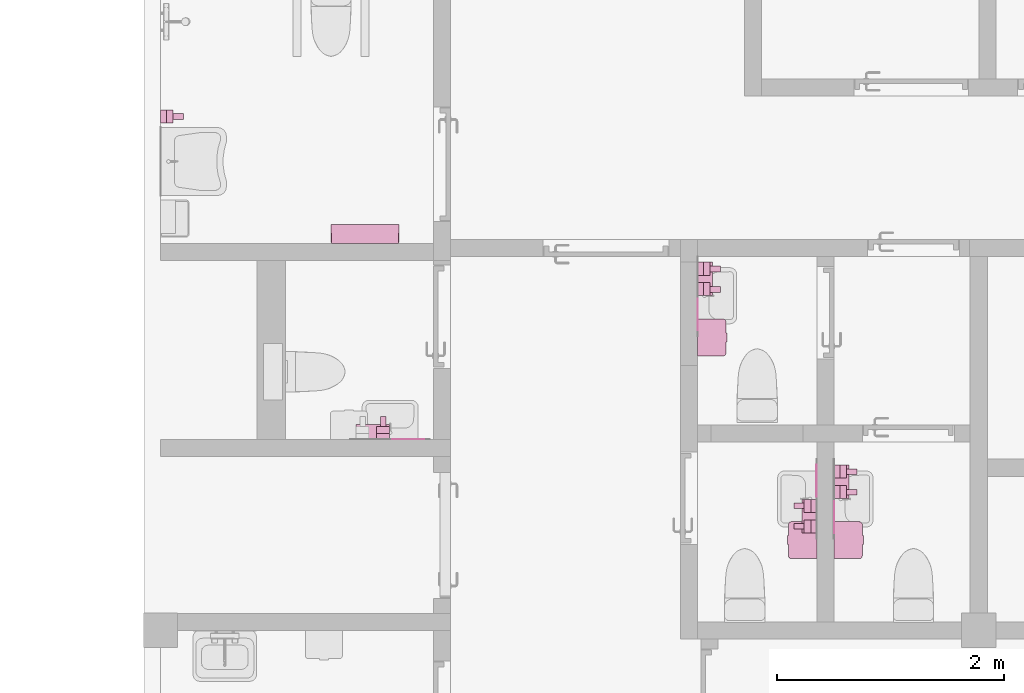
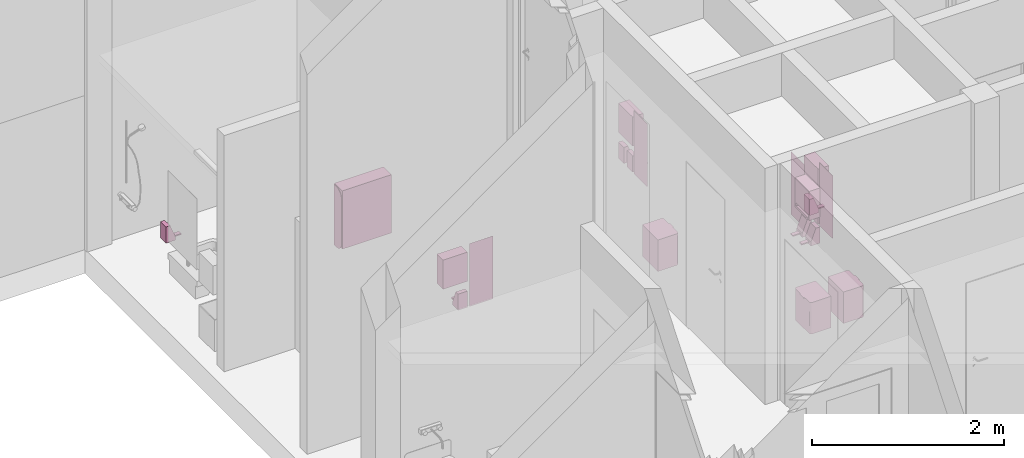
# One storey, part 54 of 58: 20 furnishings.
"""IFC2X3 building model written with IfcOpenShell, lengths in millimetres."""

from ifc_helpers import new_model, entity, si_unit, converted_unit, derived_unit, direction, frame, origin, origin_2d_with_axis, place, context, subcontext, project, spatial, polyline, rectangle, outline, extrude, faceted_brep, source, transform, mapped, material, type_object, type_shapes, element, save


model = new_model("IFC2X3")

# Units and contexts
model_context = context("Model", 3, precision=0.01, world=origin(), true_north=direction((0.7716245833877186, 0.6360782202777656)))
body_context = subcontext(model_context, "Body", "Model", "MODEL_VIEW")
ifc_project = project(units=[si_unit("LENGTHUNIT", "METRE", prefix="MILLI"), si_unit("AREAUNIT", "SQUARE_METRE"), converted_unit("PLANEANGLEUNIT", "DEGREE", entity("IfcPlaneAngleMeasure", 0.017453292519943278), si_unit("PLANEANGLEUNIT", "RADIAN"), dimensions=[0, 0, 0, 0, 0, 0, 0]), derived_unit("THERMALTRANSMITTANCEUNIT", [(si_unit("MASSUNIT", "GRAM", prefix="KILO"), 1), (si_unit("THERMODYNAMICTEMPERATUREUNIT", "KELVIN"), -1), (si_unit("TIMEUNIT", "SECOND"), -3)])], contexts=[model_context])

# Site, building, storey, space
site_placement = place(None, origin())
site = spatial("IfcSite", under=ifc_project, at=site_placement, Name="Default", CompositionType="ELEMENT")
building_placement = place(site_placement, origin())
building = spatial("IfcBuilding", under=site, at=building_placement, CompositionType="ELEMENT")
storey_placement = place(building_placement, frame((0.0, 0.0, 31140.0)))
storey = spatial("IfcBuildingStorey", under=building, at=storey_placement, Name="PLAN U1", CompositionType="ELEMENT", Elevation=31140.000000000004)
space_1_placement = place(storey_placement, origin())
space_1 = spatial("IfcSpace", under=storey, at=space_1_placement, Name="B5-304", CompositionType="ELEMENT", InteriorOrExteriorSpace="INTERNAL")

# Furnishing
ifc_material = material(Name="<Unnamed>")
furniture_type_1 = type_object("IfcFurnitureType", Name="274.019-Stellebord, nedfellbart fra vegg:Stellebord, nedfellbart", AssemblyPlace="NOTDEFINED", material=ifc_material)
shared_shape_1 = source(origin(), body_context, "Body", "Brep", [
    faceted_brep([(600.0, -86.52990503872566, -32196.251840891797), (600.0, -115.0, -32200.0), (595.0, -115.0, -32200.0), (595.0, -86.52990503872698, -32196.251840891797), (5.0, -86.52990503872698, -32196.251840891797), (5.0, -115.0, -32200.0), (0.0, -115.0, -32200.0), (0.0, -86.52990503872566, -32196.251840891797), (600.0, -60.0, -32185.262794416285), (595.0, -60.0, -32185.262794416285), (5.0, -60.0, -32185.262794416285), (0.0, -60.0, -32185.262794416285), (600.0, -37.21825406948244, -32167.781745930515), (595.0, -37.2182540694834, -32167.781745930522), (5.0, -37.2182540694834, -32167.781745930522), (0.0, -37.21825406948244, -32167.781745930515), (600.0, -8.74815910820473, -32118.470094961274), (600.0, -19.73720558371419, -32145.0), (595.0, -19.737205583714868, -32145.0), (595.0, -8.748159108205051, -32118.470094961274), (5.0, -8.748159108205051, -32118.470094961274), (5.0, -19.737205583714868, -32145.0), (0.0, -19.73720558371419, -32145.0), (0.0, -8.74815910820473, -32118.470094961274), (600.0, -5.0, -32090.0), (595.0, -5.0, -32090.0), (5.0, -5.0, -32090.0), (0.0, -5.0, -32090.0), (5.0, -5.0, -31540.0), (0.0, -5.0, -31540.0), (600.0, -5.0, -31540.0), (595.0, -5.0, -31540.0), (5.0, -8.748159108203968, -31511.52990503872), (0.0, -8.748159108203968, -31511.52990503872), (600.0, -8.748159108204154, -31511.52990503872), (595.0, -8.748159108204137, -31511.52990503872), (5.0, -19.737205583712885, -31485.0), (0.0, -19.737205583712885, -31485.0), (600.0, -19.73720558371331, -31485.0), (595.0, -19.737205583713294, -31485.0), (5.0, -37.218254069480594, -31462.218254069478), (0.0, -37.21825406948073, -31462.218254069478), (600.0, -37.218254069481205, -31462.218254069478), (595.0, -37.21825406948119, -31462.218254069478), (5.0, -60.0, -31444.73720558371), (0.0, -60.0, -31444.73720558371), (595.0, -60.0, -31444.73720558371), (600.0, -60.0, -31444.73720558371), (5.0, -86.52990503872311, -31433.7481591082), (0.0, -86.52990503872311, -31433.7481591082), (600.0, -86.52990503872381, -31433.7481591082), (595.0, -86.52990503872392, -31433.7481591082), (5.0, -115.0, -31430.0), (0.0, -115.0, -31430.0), (600.0, -115.0, -31430.0), (595.0, -115.0, -31430.0), (600.0, -165.0, -31430.0), (600.0, -165.0, -32200.0), (0.0, -165.0, -31430.0), (0.0, -165.0, -32200.0), (5.0, -160.0, -32200.0), (595.0, -160.0, -32200.0), (5.0, -160.0, -31430.0), (595.0, -160.0, -31430.0)], [[[0, 1, 2, 3]], [[4, 5, 6, 7]], [[8, 0, 3, 9]], [[10, 4, 7, 11]], [[12, 8, 9, 13]], [[14, 10, 11, 15]], [[16, 17, 18, 19]], [[20, 21, 22, 23]], [[24, 16, 19, 25]], [[26, 20, 23, 27]], [[13, 18, 17, 12]], [[21, 14, 15, 22]], [[28, 26, 27, 29]], [[30, 24, 25, 31]], [[32, 28, 29, 33]], [[34, 30, 31, 35]], [[36, 32, 33, 37]], [[38, 34, 35, 39]], [[40, 36, 37, 41]], [[42, 38, 39, 43]], [[44, 40, 41, 45]], [[43, 46, 47, 42]], [[48, 44, 45, 49]], [[50, 47, 46, 51]], [[52, 48, 49, 53]], [[54, 50, 51, 55]], [[30, 34, 38, 42, 47, 50, 54, 56, 57, 1, 0, 8, 12, 17, 16, 24]], [[57, 56, 58, 59]], [[57, 59, 6, 5, 60, 61, 2, 1]], [[29, 27, 23, 22, 15, 11, 7, 6, 59, 58, 53, 49, 45, 41, 37, 33]], [[28, 32, 36, 40, 44, 48, 52, 62, 60, 5, 4, 10, 14, 21, 20, 26]], [[61, 60, 62, 63]], [[55, 51, 46, 43, 39, 35, 31, 25, 19, 18, 13, 9, 3, 2, 61, 63]], [[54, 55, 63, 62, 52, 53, 58, 56]]]),
    faceted_brep([(595.0, -165.0, -31420.0), (595.0, -165.0, -31425.0), (595.0, -160.0, -31425.0), (595.0, -160.0, -32160.0), (595.0, 0.0, -32160.0), (595.0, 0.0, -31420.0), (5.0, -160.0, -31425.0), (5.0, -160.0, -32160.0), (5.0, 0.0, -32160.0), (5.0, 0.0, -31420.0), (5.0, -165.0, -31420.0), (5.0, -165.0, -31425.0)], [[[0, 1, 2, 3, 4, 5]], [[3, 2, 6, 7]], [[4, 3, 7, 8]], [[5, 4, 8, 9]], [[10, 9, 8, 7, 6, 11]], [[1, 0, 10, 11]], [[2, 1, 11, 6]], [[0, 5, 9, 10]]]),
])
type_shapes(furniture_type_1, [shared_shape_1])
furnishing_1_placement = place(space_1_placement, frame((260817.92444647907, 62720.72307172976, 33100.0), z_axis=(0.0, 0.0, 1.0), x_axis=(-1.0, 0.0, 0.0)))
element("IfcFurnishingElement", 1, at=furnishing_1_placement, inside=space_1, type_object=furniture_type_1, material=ifc_material, Name="274.019-Stellebord, nedfellbart fra vegg:Stellebord, nedfellbart", ObjectType="274.019-Stellebord, nedfellbart fra vegg:Stellebord, nedfellbart", context=body_context, shape_type="MappedRepresentation", body=[
    mapped(shared_shape_1, transform((0.0, 0.0, 0.0), scale=1.0)),
])

# Space
space_2_placement = place(storey_placement, origin())
space_2 = spatial("IfcSpace", under=storey, at=space_2_placement, Name="B5-311A", CompositionType="ELEMENT", InteriorOrExteriorSpace="INTERNAL")

# Furnishing
furniture_type_2 = type_object("IfcFurnitureType", Name="Avfallsstativ, vegghengt lukket:Avfallsbøtte, vegghengt lukket", AssemblyPlace="NOTDEFINED", material=ifc_material)
shared_shape_2 = source(origin(), body_context, "Body", "Brep", [
    faceted_brep([(300.0, -250.0, -30610.0), (202.50000000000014, -250.0, -30610.0), (202.50000000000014, -250.0, -30622.469562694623), (300.0, -250.0, -30622.469562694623), (122.50000000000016, -250.0, -30610.0), (25.0, -250.0, -30610.0), (25.0, -250.0, -30622.469562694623), (122.50000000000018, -250.0, -30622.469562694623), (312.5000000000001, -246.65063509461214, -30610.0), (317.6776695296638, -242.67766952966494, -30610.0), (321.65063509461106, -237.50000000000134, -30610.0), (324.14814565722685, -231.47047612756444, -30610.0), (325.0, -225.0, -30610.0), (325.0, 0.0, -30610.0), (0.0, 0.0, -30610.0), (0.0, -225.0, -30610.0), (0.8518543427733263, -231.4704761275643, -30610.0), (3.3493649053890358, -237.50000000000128, -30610.0), (7.322330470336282, -242.67766952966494, -30610.0), (12.499999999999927, -246.65063509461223, -30610.0), (18.529523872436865, -249.14814565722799, -30610.0), (122.50000000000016, -260.0, -30610.0), (202.50000000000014, -260.0, -30610.0), (306.47047612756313, -249.14814565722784, -30610.0), (12.499999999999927, -246.65063509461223, -30622.469562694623), (7.322330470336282, -242.67766952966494, -30622.469562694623), (3.3493649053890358, -237.50000000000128, -30622.469562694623), (0.8518543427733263, -231.4704761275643, -30622.469562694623), (0.0, -225.0, -30622.469562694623), (0.0, 0.0, -30622.469562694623), (325.0, 0.0, -30622.469562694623), (325.0, -225.0, -30622.469562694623), (324.14814565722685, -231.47047612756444, -30622.469562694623), (321.65063509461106, -237.50000000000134, -30622.469562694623), (317.6776695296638, -242.67766952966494, -30622.469562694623), (312.5000000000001, -246.65063509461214, -30622.469562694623), (306.47047612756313, -249.14814565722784, -30622.469562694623), (202.5000000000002, -260.0, -30622.469562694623), (122.50000000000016, -260.0, -30622.469562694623), (18.529523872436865, -249.14814565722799, -30622.469562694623)], [[[0, 1, 2, 3]], [[4, 5, 6, 7]], [[8, 9, 10, 11, 12, 13, 14, 15, 16, 17, 18, 19, 20, 5, 4, 21, 22, 1, 0, 23]], [[24, 25, 26, 27, 28, 29, 30, 31, 32, 33, 34, 35, 36, 3, 2, 37, 38, 7, 6, 39]], [[14, 13, 30, 29]], [[15, 14, 29, 28]], [[16, 15, 28, 27]], [[17, 16, 27, 26]], [[18, 17, 26, 25]], [[19, 18, 25, 24]], [[20, 19, 24, 39]], [[5, 20, 39, 6]], [[23, 0, 3, 36]], [[8, 23, 36, 35]], [[9, 8, 35, 34]], [[10, 9, 34, 33]], [[11, 10, 33, 32]], [[12, 11, 32, 31]], [[13, 12, 31, 30]], [[21, 4, 7, 38]], [[22, 21, 38, 37]], [[1, 22, 37, 2]]]),
    faceted_brep([(325.0, 0.0, -30622.469562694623), (315.0, -10.0, -30622.469562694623), (325.0, -225.0, -30622.469562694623), (10.0, -10.0, -30622.469562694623), (0.0, 0.0, -30622.469562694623), (0.0, -225.0, -30622.469562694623), (10.0, -225.0, -30622.469562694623), (10.51111260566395, -228.88228567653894, -30622.469562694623), (0.8518543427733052, -231.4704761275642, -30622.469562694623), (12.009618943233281, -232.50000000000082, -30622.469562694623), (3.3493649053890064, -237.5000000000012, -30622.469562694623), (7.322330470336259, -242.6776695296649, -30622.469562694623), (14.393398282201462, -235.6066017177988, -30622.469562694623), (12.499999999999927, -246.65063509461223, -30622.469562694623), (17.49999999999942, -237.99038105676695, -30622.469562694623), (18.529523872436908, -249.148145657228, -30622.469562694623), (21.11771432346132, -239.48888739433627, -30622.469562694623), (25.0, -250.0, -30622.469562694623), (25.0, -240.0, -30622.469562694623), (300.0, -250.0, -30622.469562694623), (300.0, -240.0, -30622.469562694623), (303.882285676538, -239.48888739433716, -30622.469562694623), (306.4704761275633, -249.1481456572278, -30622.469562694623), (307.5000000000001, -237.99038105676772, -30622.469562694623), (312.5000000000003, -246.65063509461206, -30622.469562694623), (310.6066017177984, -235.60660171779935, -30622.469562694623), (317.67766952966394, -242.6776695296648, -30622.469562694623), (312.99038105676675, -232.50000000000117, -30622.469562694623), (321.6506350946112, -237.50000000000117, -30622.469562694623), (324.1481456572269, -231.4704761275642, -30622.469562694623), (314.4888873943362, -228.882285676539, -30622.469562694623), (315.0, -225.0, -30622.469562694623), (12.499999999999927, -246.65063509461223, -31010.0), (7.322330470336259, -242.6776695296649, -31010.0), (3.3493649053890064, -237.5000000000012, -31010.0), (0.8518543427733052, -231.4704761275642, -31010.0), (0.0, -225.0, -31010.0), (0.0, 0.0, -31010.0), (325.0, 0.0, -31010.0), (325.0, -225.0, -31010.0), (324.1481456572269, -231.4704761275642, -31010.0), (321.6506350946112, -237.50000000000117, -31010.0), (317.67766952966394, -242.6776695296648, -31010.0), (312.5000000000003, -246.65063509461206, -31010.0), (306.4704761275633, -249.1481456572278, -31010.0), (300.0, -250.0, -31010.0), (25.0, -250.0, -31010.0), (18.529523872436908, -249.148145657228, -31010.0), (0.0, -225.0, -30816.23478134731), (1.9030116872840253, -234.56708580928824, -30816.234781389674), (20.1227419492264, -249.5196320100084, -30765.24939916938), (15.43291419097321, -248.0969883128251, -30816.23478137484), (0.4803679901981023, -229.87725805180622, -30867.220163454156), (5.1661664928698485, -240.21903572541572, -30844.27154992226), (25.0, -250.0, -30816.23478134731), (9.780964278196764, -244.8338335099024, -30788.19801262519), (300.0, -250.0, -30816.23478134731), (309.5670858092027, -248.09698831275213, -30816.23478136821), (324.51963201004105, -229.87725805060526, -30765.249399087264), (323.09698831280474, -234.5670858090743, -30816.23478136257), (304.87725805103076, -249.51963200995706, -30867.220163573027), (315.219035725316, -244.833833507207, -30844.271550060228), (325.0, -225.0, -30816.23478134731), (319.83383350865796, -240.21903572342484, -30788.198012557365), (10.0, -10.0, -30997.53043730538), (315.0, -10.0, -30997.53043730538), (315.0, -225.0, -30997.53043730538), (315.0, -225.0, -30862.29730478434), (315.0, -225.0, -30757.70269521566), (313.8581929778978, -230.74025150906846, -30710.62416546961), (311.90030005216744, -234.13142150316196, -30809.999998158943), (312.1922170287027, -233.73783977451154, -30711.959482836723), (303.2078222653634, -239.65298182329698, -30769.81399780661), (300.0, -240.0, -30757.702687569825), (313.858193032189, -230.74025137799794, -30909.37583365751), (314.25697939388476, -229.66246056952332, -30809.99999840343), (314.7595251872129, -227.6751478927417, -30912.405626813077), (305.7402515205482, -238.85819297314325, -30824.218520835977), (309.13142139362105, -236.90030013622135, -30741.84328772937), (309.1314214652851, -236.9003000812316, -30883.165047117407), (303.01290960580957, -239.69429738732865, -30859.006726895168), (314.75952516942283, -227.67514799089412, -30707.594374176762), (312.99038105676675, -232.50000000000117, -30997.53043730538), (312.19221708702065, -233.73783969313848, -30908.040514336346), (314.4888873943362, -228.882285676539, -30997.53043730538), (305.74025145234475, -238.85819300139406, -30715.40947020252), (305.4416115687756, -238.97815665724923, -30917.083020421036), (300.0, -240.0, -30877.6165624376), (303.882285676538, -239.48888739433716, -30997.53043730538), (300.0, -240.0, -30997.53043730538), (310.6066017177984, -235.60660171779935, -30997.53043730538), (307.5000000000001, -237.99038105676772, -30997.53043730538), (25.0, -240.0, -30997.53043730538), (25.0, -240.0, -30862.297304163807), (25.0, -240.0, -30757.702695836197), (19.259748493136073, -238.85819297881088, -30710.624166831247), (10.0, -225.0, -30877.61670456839), (10.511112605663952, -228.88228567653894, -30997.53043730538), (10.0, -225.0, -30997.53043730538), (14.393398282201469, -235.6066017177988, -30997.53043730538), (13.099699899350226, -234.13142143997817, -30883.165048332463), (16.262160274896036, -237.1922170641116, -30908.0405160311), (22.32485202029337, -239.75952517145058, -30912.405624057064), (19.259748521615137, -238.85819299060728, -30909.375834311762), (20.33753950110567, -239.2569794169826, -30810.000000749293), (22.32485201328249, -239.75952517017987, -30707.594375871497), (21.11771432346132, -239.48888739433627, -30997.53043730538), (17.499999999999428, -237.99038105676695, -30997.53043730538), (16.262160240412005, -237.1922170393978, -30711.95948379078), (15.868578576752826, -236.90030011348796, -30810.00000012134), (13.09969988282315, -234.13142141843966, -30741.843289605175), (10.347018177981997, -228.20782227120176, -30769.813997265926), (11.141807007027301, -230.74025147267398, -30715.409470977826), (11.141807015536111, -230.74025149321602, -30824.218522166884), (10.30570260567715, -228.01290957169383, -30859.00672535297), (11.021843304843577, -230.44161147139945, -30917.08302024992), (12.009618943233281, -232.50000000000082, -30997.53043730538), (10.0, -225.0, -30757.70275223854)], [[[0, 1, 2]], [[1, 0, 3]], [[4, 3, 0]], [[3, 4, 5]], [[5, 6, 3]], [[7, 6, 5]], [[8, 7, 5]], [[7, 8, 9]], [[10, 9, 8]], [[11, 9, 10]], [[11, 12, 9]], [[11, 13, 12]], [[13, 14, 12]], [[14, 13, 15]], [[16, 14, 15]], [[15, 17, 16]], [[18, 16, 17]], [[18, 17, 19]], [[20, 18, 19]], [[21, 20, 19]], [[19, 22, 21]], [[21, 22, 23]], [[23, 22, 24]], [[25, 23, 24]], [[26, 25, 24]], [[26, 27, 25]], [[27, 26, 28]], [[29, 27, 28]], [[30, 29, 2]], [[30, 27, 29]], [[2, 1, 31]], [[31, 30, 2]], [[32, 33, 34, 35, 36, 37, 38, 39, 40, 41, 42, 43, 44, 45, 46, 47]], [[4, 0, 38, 37]], [[4, 37, 36, 48, 5]], [[49, 35, 34]], [[47, 50, 51]], [[36, 52, 48]], [[53, 49, 34]], [[34, 33, 53]], [[52, 35, 49]], [[50, 17, 15]], [[48, 8, 5]], [[10, 8, 49]], [[35, 52, 36]], [[10, 49, 53]], [[17, 50, 54]], [[51, 32, 47]], [[55, 53, 33]], [[11, 53, 55]], [[47, 46, 54]], [[33, 32, 55]], [[55, 51, 13]], [[48, 52, 8]], [[51, 15, 13]], [[51, 50, 15]], [[10, 53, 11]], [[54, 50, 47]], [[32, 51, 55]], [[8, 52, 49]], [[55, 13, 11]], [[17, 54, 46, 45, 56, 19]], [[57, 44, 43]], [[40, 58, 59]], [[45, 60, 56]], [[61, 57, 43]], [[43, 42, 61]], [[60, 44, 57]], [[58, 2, 29]], [[56, 22, 19]], [[24, 22, 57]], [[44, 60, 45]], [[24, 57, 61]], [[2, 58, 62]], [[59, 41, 40]], [[63, 61, 42]], [[26, 61, 63]], [[40, 39, 62]], [[42, 41, 63]], [[63, 59, 28]], [[56, 60, 22]], [[59, 29, 28]], [[59, 58, 29]], [[24, 61, 26]], [[62, 58, 40]], [[41, 59, 63]], [[22, 60, 57]], [[63, 28, 26]], [[0, 2, 62, 39, 38]], [[1, 3, 64, 65]], [[1, 65, 66, 67, 68, 31]], [[69, 70, 71]], [[72, 73, 20]], [[74, 75, 76]], [[68, 67, 75]], [[77, 78, 79]], [[73, 72, 80]], [[76, 67, 66]], [[30, 81, 69]], [[69, 27, 30]], [[82, 83, 74]], [[82, 74, 84]], [[23, 78, 85]], [[72, 85, 77]], [[69, 75, 70]], [[70, 74, 83]], [[80, 77, 86]], [[78, 23, 25]], [[71, 70, 78]], [[81, 30, 31]], [[86, 77, 79]], [[80, 72, 77]], [[23, 85, 21]], [[87, 88, 89]], [[79, 90, 91]], [[70, 79, 78]], [[90, 79, 83]], [[72, 20, 21]], [[77, 85, 78]], [[71, 27, 69]], [[68, 75, 81]], [[71, 25, 27]], [[25, 71, 78]], [[84, 74, 76]], [[75, 74, 70]], [[70, 83, 79]], [[83, 82, 90]], [[69, 81, 75]], [[68, 81, 31]], [[84, 76, 66]], [[67, 76, 75]], [[85, 72, 21]], [[87, 73, 80]], [[80, 88, 87]], [[88, 80, 86]], [[86, 91, 88]], [[91, 86, 79]], [[18, 20, 73, 87, 89, 92, 93, 94]], [[95, 14, 16]], [[96, 97, 98]], [[99, 100, 101]], [[102, 103, 104]], [[16, 18, 105]], [[93, 104, 94]], [[103, 106, 107]], [[101, 103, 107]], [[102, 93, 92]], [[94, 105, 18]], [[108, 95, 109]], [[12, 110, 9]], [[109, 100, 110]], [[111, 112, 113]], [[109, 103, 101]], [[16, 105, 95]], [[114, 113, 115]], [[100, 115, 113]], [[100, 99, 116]], [[109, 110, 108]], [[111, 117, 6]], [[114, 111, 113]], [[117, 111, 114]], [[104, 109, 95]], [[9, 110, 112]], [[113, 110, 100]], [[9, 112, 7]], [[111, 6, 7]], [[113, 112, 110]], [[108, 14, 95]], [[94, 104, 105]], [[108, 12, 14]], [[12, 108, 110]], [[106, 103, 102]], [[104, 103, 109]], [[109, 101, 100]], [[101, 107, 99]], [[95, 105, 104]], [[106, 102, 92]], [[93, 102, 104]], [[112, 111, 7]], [[96, 117, 114]], [[114, 97, 96]], [[97, 114, 115]], [[115, 116, 97]], [[116, 115, 100]], [[3, 6, 117, 96, 98, 64]], [[82, 84, 66, 65, 64, 98, 97, 116, 99, 107, 106, 92, 89, 88, 91, 90]]]),
])
type_shapes(furniture_type_2, [shared_shape_2])
furnishing_2_placement = place(space_2_placement, frame((264642.924446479, 59945.72307172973, 31140.0), z_axis=(0.0, 0.0, 1.0), x_axis=(0.0, 1.0, 0.0)))
element("IfcFurnishingElement", 2, at=furnishing_2_placement, inside=space_2, type_object=furniture_type_2, material=ifc_material, Name="Avfallsstativ, vegghengt lukket:Avfallsbøtte, vegghengt lukket", ObjectType="Avfallsstativ, vegghengt lukket:Avfallsbøtte, vegghengt lukket", context=body_context, shape_type="MappedRepresentation", body=[
    mapped(shared_shape_2, transform((0.0, 0.0, 0.0), scale=1.0)),
])

# Space
space_3_placement = place(storey_placement, origin())
space_3 = spatial("IfcSpace", under=storey, at=space_3_placement, Name="B5-311B", CompositionType="ELEMENT", InteriorOrExteriorSpace="INTERNAL")

# Furnishing
furnishing_3_placement = place(space_3_placement, frame((264492.924446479, 60270.72307172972, 31140.0), z_axis=(0.0, 0.0, 1.0), x_axis=(0.0, -1.0, 0.0)))
element("IfcFurnishingElement", 3, at=furnishing_3_placement, inside=space_3, type_object=furniture_type_2, material=ifc_material, Name="Avfallsstativ, vegghengt lukket:Avfallsbøtte, vegghengt lukket", ObjectType="Avfallsstativ, vegghengt lukket:Avfallsbøtte, vegghengt lukket", context=body_context, shape_type="MappedRepresentation", body=[
    mapped(shared_shape_2, transform((0.0, 0.0, 0.0), scale=1.0)),
])

# Space
space_4_placement = place(storey_placement, origin())
space_4 = spatial("IfcSpace", under=storey, at=space_4_placement, Name="WC", CompositionType="ELEMENT", InteriorOrExteriorSpace="INTERNAL")

# Furnishings
furnishing_4_placement = place(space_4_placement, frame((263442.92444647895, 61729.50163955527, 31140.0), z_axis=(0.0, 0.0, 1.0), x_axis=(0.0, 1.0, 0.0)))
element("IfcFurnishingElement", 4, at=furnishing_4_placement, inside=space_4, type_object=furniture_type_2, material=ifc_material, Name="Avfallsstativ, vegghengt lukket:Avfallsbøtte, vegghengt lukket", ObjectType="Avfallsstativ, vegghengt lukket:Avfallsbøtte, vegghengt lukket", context=body_context, shape_type="MappedRepresentation", body=[
    mapped(shared_shape_2, transform((0.0, 0.0, 0.0), scale=1.0)),
])
furniture_type_3 = type_object("IfcFurnitureType", Name="Servantdispenser:Servantdispenser", AssemblyPlace="NOTDEFINED", material=ifc_material)
shared_shape_3 = source(origin(), body_context, "Body", "SweptSolid", [
    extrude(outline(polyline([(-56.0, -92.0), (54.0, -92.0), (54.0, 113.0), (4.0, 113.0), (-56.0, -42.0), (-56.0, -92.0)])), frame((-57.499999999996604, -51.0, 92.0), z_axis=(1.0, 0.0, 0.0), x_axis=(0.0, 1.0, 0.0)), (0.0, 0.0, 1.0), 114.99999999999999),
    extrude(rectangle(XDim=90.00000000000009, YDim=50.00000000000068, at=origin_2d_with_axis()), frame((-2.1527777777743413, -152.0, 20.0), z_axis=(0.0, 0.0, 1.0), x_axis=(0.0, 1.0, 0.0)), (0.0, 0.0, 1.0), 14.999999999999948),
])
type_shapes(furniture_type_3, [shared_shape_3])
for number, where, z_axis, x_axis in (
    (5, (264647.924446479, 60533.22307172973, 1070.0), (0.0, 0.0, 1.0), (0.0, 1.0, 0.0)),
    (6, (264647.924446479, 60713.22307172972, 1070.0), (0.0, 0.0, 1.0), (0.0, 1.0, 0.0)),
):
    element("IfcFurnishingElement", number, at=place(space_2_placement, frame(where, z_axis=z_axis, x_axis=x_axis)), inside=space_2, type_object=furniture_type_3, material=ifc_material, Name="Servantdispenser:Servantdispenser", ObjectType="Servantdispenser:Servantdispenser", context=body_context, shape_type="MappedRepresentation", body=[
        mapped(shared_shape_3, transform((0.0, 0.0, 0.0), scale=1.0)),
    ])
for number, where, z_axis, x_axis in (
    (7, (264487.92444647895, 60408.22307172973, 1070.0), (0.0, 0.0, 1.0), (0.0, -1.0, 0.0)),
    (8, (264487.92444647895, 60228.223071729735, 1070.0), (0.0, 0.0, 1.0), (0.0, -1.0, 0.0)),
):
    element("IfcFurnishingElement", number, at=place(space_3_placement, frame(where, z_axis=z_axis, x_axis=x_axis)), inside=space_3, type_object=furniture_type_3, material=ifc_material, Name="Servantdispenser:Servantdispenser", ObjectType="Servantdispenser:Servantdispenser", context=body_context, shape_type="MappedRepresentation", body=[
        mapped(shared_shape_3, transform((0.0, 0.0, 0.0), scale=1.0)),
    ])
furnishing_5_placement = place(space_1_placement, frame((258720.924446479, 63838.22307172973, 900.0), z_axis=(0.0, 0.0, 1.0), x_axis=(0.0, 1.0, 0.0)))
element("IfcFurnishingElement", 9, at=furnishing_5_placement, inside=space_1, type_object=furniture_type_3, material=ifc_material, Name="Servantdispenser:Servantdispenser", ObjectType="Servantdispenser:Servantdispenser", context=body_context, shape_type="MappedRepresentation", body=[
    mapped(shared_shape_3, transform((0.0, 0.0, 0.0), scale=1.0)),
])
for number, where, z_axis, x_axis in (
    (10, (263447.924446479, 62317.00163955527, 1070.0), (0.0, 0.0, 1.0), (0.0, 1.0, 0.0)),
    (11, (263447.924446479, 62497.00163955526, 1070.0), (0.0, 0.0, 1.0), (0.0, 1.0, 0.0)),
):
    element("IfcFurnishingElement", number, at=place(space_4_placement, frame(where, z_axis=z_axis, x_axis=x_axis)), inside=space_4, type_object=furniture_type_3, material=ifc_material, Name="Servantdispenser:Servantdispenser", ObjectType="Servantdispenser:Servantdispenser", context=body_context, shape_type="MappedRepresentation", body=[
        mapped(shared_shape_3, transform((0.0, 0.0, 0.0), scale=1.0)),
    ])

# Space
space_5_placement = place(storey_placement, origin())
space_5 = spatial("IfcSpace", under=storey, at=space_5_placement, Name="B5-303", CompositionType="ELEMENT", InteriorOrExteriorSpace="INTERNAL")

# Furnishings
furnishing_6_placement = place(space_5_placement, frame((260675.4244464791, 60999.50163955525, 1070.0), z_axis=(0.0, 0.0, 1.0), x_axis=(-1.0, 0.0, 0.0)))
element("IfcFurnishingElement", 12, at=furnishing_6_placement, inside=space_5, type_object=furniture_type_3, material=ifc_material, Name="Servantdispenser:Servantdispenser", ObjectType="Servantdispenser:Servantdispenser", context=body_context, shape_type="MappedRepresentation", body=[
    mapped(shared_shape_3, transform((0.0, 0.0, 0.0), scale=1.0)),
])
furniture_type_4 = type_object("IfcFurnitureType", Name="279.xxx-Speil:Speil veggfast,280x800", AssemblyPlace="NOTDEFINED", material=ifc_material)
shared_shape_4 = source(origin(), body_context, "Body", "SweptSolid", [
    extrude(rectangle(XDim=2.0, YDim=279.99999999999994, at=origin_2d_with_axis()), frame((0.0, 4.0, 0.0), z_axis=(0.0, 0.0, 1.0), x_axis=(0.0, 1.0, 0.0)), (0.0, 0.0, 1.0), 800.0000000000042),
])
type_shapes(furniture_type_4, [shared_shape_4])
furnishing_7_placement = place(space_2_placement, frame((264649.924446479, 60310.72307172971, 1070.0), z_axis=(0.0, 0.0, 1.0), x_axis=(0.0, 1.0, 0.0)))
element("IfcFurnishingElement", 13, at=furnishing_7_placement, inside=space_2, type_object=furniture_type_4, material=ifc_material, Name="279.xxx-Speil:Speil veggfast,280x800", ObjectType="279.xxx-Speil:Speil veggfast,280x800", context=body_context, shape_type="MappedRepresentation", body=[
    mapped(shared_shape_4, transform((0.0, 0.0, 0.0), scale=1.0)),
])
furnishing_8_placement = place(space_3_placement, frame((264485.92444647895, 60630.723071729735, 1070.0), z_axis=(0.0, 0.0, 1.0), x_axis=(0.0, -1.0, 0.0)))
element("IfcFurnishingElement", 14, at=furnishing_8_placement, inside=space_3, type_object=furniture_type_4, material=ifc_material, Name="279.xxx-Speil:Speil veggfast,280x800", ObjectType="279.xxx-Speil:Speil veggfast,280x800", context=body_context, shape_type="MappedRepresentation", body=[
    mapped(shared_shape_4, transform((0.0, 0.0, 0.0), scale=1.0)),
])
furnishing_9_placement = place(space_4_placement, frame((263449.924446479, 62094.50163955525, 1070.0), z_axis=(0.0, 0.0, 1.0), x_axis=(0.0, 1.0, 0.0)))
element("IfcFurnishingElement", 15, at=furnishing_9_placement, inside=space_4, type_object=furniture_type_4, material=ifc_material, Name="279.xxx-Speil:Speil veggfast,280x800", ObjectType="279.xxx-Speil:Speil veggfast,280x800", context=body_context, shape_type="MappedRepresentation", body=[
    mapped(shared_shape_4, transform((0.0, 0.0, 0.0), scale=1.0)),
])
furnishing_10_placement = place(space_5_placement, frame((260897.9244464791, 61001.50163955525, 1070.0), z_axis=(0.0, 0.0, 1.0), x_axis=(-1.0, 0.0, 0.0)))
element("IfcFurnishingElement", 16, at=furnishing_10_placement, inside=space_5, type_object=furniture_type_4, material=ifc_material, Name="279.xxx-Speil:Speil veggfast,280x800", ObjectType="279.xxx-Speil:Speil veggfast,280x800", context=body_context, shape_type="MappedRepresentation", body=[
    mapped(shared_shape_4, transform((0.0, 0.0, 0.0), scale=1.0)),
])
furniture_type_5 = type_object("IfcFurnitureType", Name="Dispenser, papir:Dispenser, papir", AssemblyPlace="NOTDEFINED", material=ifc_material)
shared_shape_5 = source(origin(), body_context, "Body", "Brep", [
    faceted_brep([(147.4999999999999, 0.0, -32870.0), (-147.4999999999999, 0.0, -32870.0), (-147.4999999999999, -130.0, -32870.0), (147.4999999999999, -130.0, -32870.0), (147.4999999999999, 0.0, -33240.0), (147.4999999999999, -130.0, -33240.0), (-147.4999999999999, -130.0, -33240.0), (-147.4999999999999, 0.0, -33240.0), (-127.4999999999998, -130.0, -33180.0), (127.4999999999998, -130.0, -33180.0), (127.4999999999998, -130.0, -33220.0), (-127.4999999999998, -130.0, -33220.0), (127.4999999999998, -10.0, -33180.0), (-127.4999999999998, -10.0, -33180.0), (-127.4999999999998, -10.0, -33220.0), (127.4999999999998, -10.0, -33220.0)], [[[0, 1, 2, 3]], [[4, 5, 6, 7]], [[1, 0, 4, 7]], [[2, 1, 7, 6]], [[3, 2, 6, 5], [8, 9, 10, 11]], [[0, 3, 5, 4]], [[12, 13, 14, 15]], [[13, 12, 9, 8]], [[14, 13, 8, 11]], [[15, 14, 11, 10]], [[12, 15, 10, 9]]]),
])
type_shapes(furniture_type_5, [shared_shape_5])
furnishing_11_placement = place(space_2_placement, frame((264644.924446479, 60623.22307172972, 34640.0), z_axis=(0.0, 0.0, 1.0), x_axis=(0.0, 1.0, 0.0)))
element("IfcFurnishingElement", 17, at=furnishing_11_placement, inside=space_2, type_object=furniture_type_5, material=ifc_material, Name="Dispenser, papir:Dispenser, papir", ObjectType="Dispenser, papir:Dispenser, papir", context=body_context, shape_type="MappedRepresentation", body=[
    mapped(shared_shape_5, transform((0.0, 0.0, 0.0), scale=1.0)),
])
furnishing_12_placement = place(space_3_placement, frame((264490.924446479, 60318.22307172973, 34640.0), z_axis=(0.0, 0.0, 1.0), x_axis=(0.0, -1.0, 0.0)))
element("IfcFurnishingElement", 18, at=furnishing_12_placement, inside=space_3, type_object=furniture_type_5, material=ifc_material, Name="Dispenser, papir:Dispenser, papir", ObjectType="Dispenser, papir:Dispenser, papir", context=body_context, shape_type="MappedRepresentation", body=[
    mapped(shared_shape_5, transform((0.0, 0.0, 0.0), scale=1.0)),
])
furnishing_13_placement = place(space_4_placement, frame((263444.92444647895, 62407.00163955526, 34640.0), z_axis=(0.0, 0.0, 1.0), x_axis=(0.0, 1.0, 0.0)))
element("IfcFurnishingElement", 19, at=furnishing_13_placement, inside=space_4, type_object=furniture_type_5, material=ifc_material, Name="Dispenser, papir:Dispenser, papir", ObjectType="Dispenser, papir:Dispenser, papir", context=body_context, shape_type="MappedRepresentation", body=[
    mapped(shared_shape_5, transform((0.0, 0.0, 0.0), scale=1.0)),
])
furnishing_14_placement = place(space_5_placement, frame((260585.42444647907, 60996.50163955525, 34640.0), z_axis=(0.0, 0.0, 1.0), x_axis=(-1.0, 0.0, 0.0)))
element("IfcFurnishingElement", 20, at=furnishing_14_placement, inside=space_5, type_object=furniture_type_5, material=ifc_material, Name="Dispenser, papir:Dispenser, papir", ObjectType="Dispenser, papir:Dispenser, papir", context=body_context, shape_type="MappedRepresentation", body=[
    mapped(shared_shape_5, transform((0.0, 0.0, 0.0), scale=1.0)),
])

save(model, "model.ifc")
